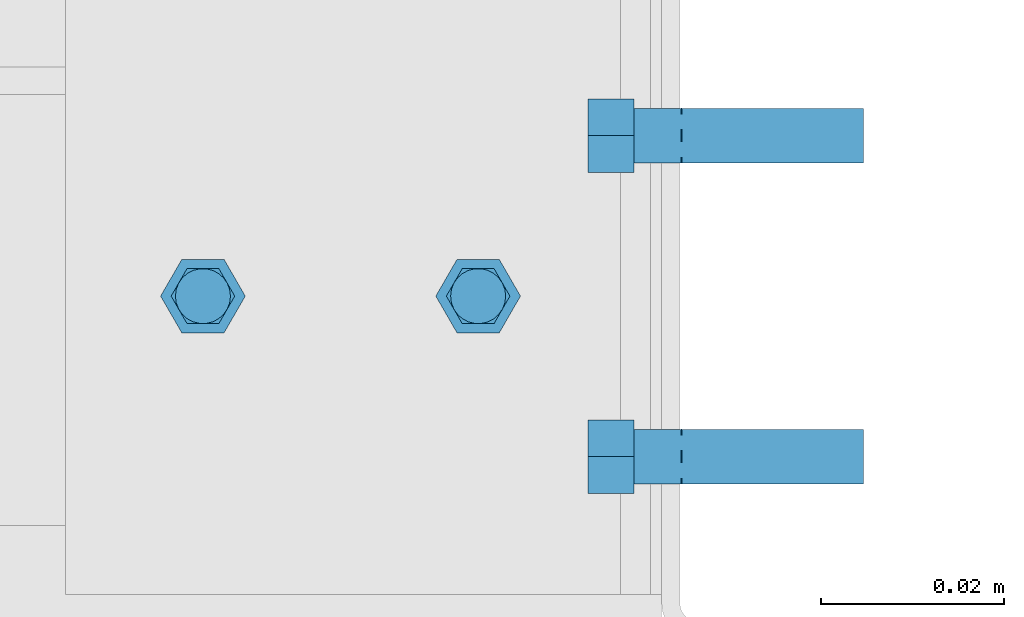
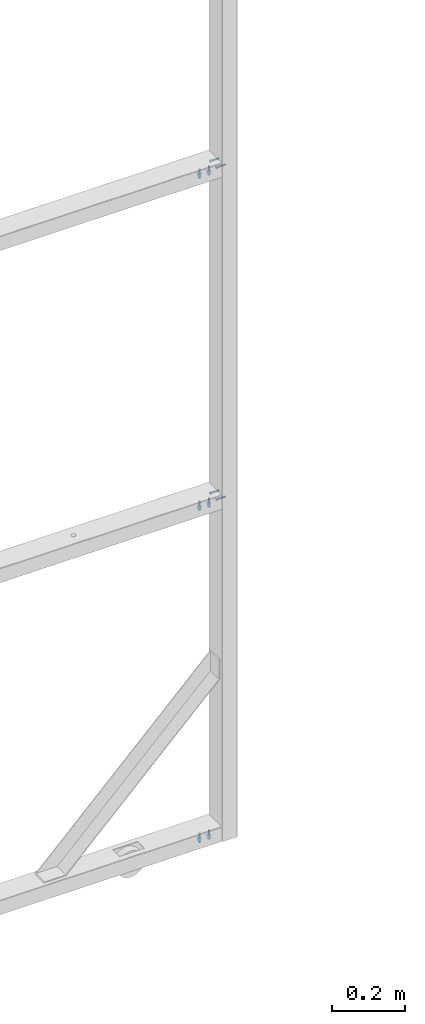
# One storey, part 75 of 91: 8 mechanical fasteners, 1 element without a shape of its own.
"""IFC2X3 building model written with IfcOpenShell, lengths in millimetres."""

from ifc_helpers import new_model, si_unit, frame, origin_with_axes, origin_2d_with_axis, place, context, subcontext, project, spatial, polyline, circle, outline, extrude, source, transform, mapped, material, type_object, element, aggregate, save


model = new_model("IFC2X3")

# Units and contexts
model_context = context("Model", 3, precision=1e-05, world=origin_with_axes())
body_context = subcontext(model_context, "Body", "Model", "MODEL_VIEW")
ifc_project = project(units=[si_unit("LENGTHUNIT", "METRE", prefix="MILLI"), si_unit("AREAUNIT", "SQUARE_METRE"), si_unit("VOLUMEUNIT", "CUBIC_METRE"), si_unit("MASSUNIT", "GRAM", prefix="KILO"), si_unit("TIMEUNIT", "SECOND"), si_unit("PLANEANGLEUNIT", "RADIAN"), si_unit("SOLIDANGLEUNIT", "STERADIAN"), si_unit("THERMODYNAMICTEMPERATUREUNIT", "DEGREE_CELSIUS"), si_unit("LUMINOUSINTENSITYUNIT", "LUMEN")], contexts=[model_context])

# Site, building, storey
site_placement = place(None, origin_with_axes())
site = spatial("IfcSite", under=ifc_project, at=site_placement, Name="Undefined", CompositionType="ELEMENT")
building_placement = place(site_placement, origin_with_axes())
building = spatial("IfcBuilding", under=site, at=building_placement, Name="Undefined", CompositionType="ELEMENT")
storey_placement = place(building_placement, origin_with_axes())
storey = spatial("IfcBuildingStorey", under=building, at=storey_placement, Name="Undefined", CompositionType="ELEMENT", Elevation=0.0)

# Assembly, mechanical fasteners
assembly_placement = place(storey_placement, origin_with_axes())
assembly = element("IfcElementAssembly", 1, at=assembly_placement, inside=storey, Name="Sliding Door Beam", AssemblyPlace="NOTDEFINED", PredefinedType="RIGID_FRAME")
ifc_material = material(Name="TEK_11TPIM")
discrete_accessory_type = type_object("IfcDiscreteAccessoryType", Name="Bolt assembly")
shared_shape_1 = source(origin_with_axes(), body_context, "Body", "SweptSolid", [
    extrude(circle(Radius=3.0, at=origin_2d_with_axis()), frame((0.0, 6.10000000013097, 0.0), z_axis=(0.0, 1.0, 0.0), x_axis=(1.0, 0.0, 0.0)), (0.0, 0.0, 1.0), 3.0),
    extrude(circle(Radius=3.0, at=origin_2d_with_axis()), frame((0.0, 8.9, 0.0), z_axis=(0.0, 1.0, 0.0), x_axis=(1.0, 0.0, 0.0)), (0.0, 0.0, 1.0), 2.1),
    extrude(outline(polyline([(4.61880215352, 0.0), (2.30940107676, 4.00000000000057), (-2.30940107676, 4.00000000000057), (-4.61880215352, 0.0), (-2.30940107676, -4.00000000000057), (2.30940107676, -4.00000000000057), (4.61880215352, 0.0)])), frame((0.0, 1.00000000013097, 0.0), z_axis=(0.0, 1.0, 0.0), x_axis=(1.0, 0.0, 0.0)), (0.0, 0.0, 1.0), 5.0),
    extrude(circle(Radius=3.0, at=origin_2d_with_axis()), frame((0.0, 6.00000000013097, 0.0), z_axis=(0.0, 1.0, 0.0), x_axis=(1.0, 0.0, 0.0)), (0.0, 0.0, 1.0), 25.0),
    extrude(circle(Radius=3.0, at=origin_2d_with_axis()), frame((0.0, 11.0, 0.0), z_axis=(0.0, 1.0, 0.0), x_axis=(1.0, 0.0, 0.0)), (0.0, 0.0, 1.0), 0.1),
    extrude(outline(polyline([(3.46410161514, 0.0), (1.73205080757, 3.00000000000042), (-1.73205080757, 3.00000000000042), (-3.46410161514, 0.0), (-1.73205080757, -3.00000000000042), (1.73205080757, -3.00000000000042), (3.46410161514, 0.0)])), frame((0.0, 11.1000000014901, 0.0), z_axis=(0.0, 1.0, 0.0), x_axis=(1.0, 0.0, 0.0)), (0.0, 0.0, 1.0), 0.1),
])
mechanical_fastener_1_placement = place(assembly_placement, frame((-110610.29, 93380.0, 1122.33666666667), z_axis=(0.0, -1.0, 0.0), x_axis=(0.0, 0.0, -1.0)))
mechanical_fastener_1 = element("IfcMechanicalFastener", 2, at=mechanical_fastener_1_placement, type_object=discrete_accessory_type, material=ifc_material, Name="Bolt assembly", NominalDiameter=6.0, NominalLength=25.0, context=body_context, shape_type="MappedRepresentation", body=[
    mapped(shared_shape_1, transform((0.0, 0.0, -17.5))),
    mapped(shared_shape_1, transform((0.0, 0.0, 17.5))),
])
mechanical_fastener_2_placement = place(assembly_placement, frame((-110610.29, 93380.0, 2236.66333333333), z_axis=(0.0, -1.0, 0.0), x_axis=(0.0, 0.0, -1.0)))
mechanical_fastener_2 = element("IfcMechanicalFastener", 3, at=mechanical_fastener_2_placement, type_object=discrete_accessory_type, material=ifc_material, Name="Bolt assembly", NominalDiameter=6.0, NominalLength=25.0, context=body_context, shape_type="MappedRepresentation", body=[
    mapped(shared_shape_1, transform((0.0, 0.0, -17.5))),
    mapped(shared_shape_1, transform((0.0, 0.0, 17.5))),
])
shared_shape_2 = source(origin_with_axes(), body_context, "Body", "SweptSolid", [
    extrude(circle(Radius=3.0, at=origin_2d_with_axis()), frame((0.0, 0.1, 0.0), z_axis=(0.0, 1.0, 0.0), x_axis=(1.0, 0.0, 0.0)), (0.0, 0.0, 1.0), 2.0),
    extrude(circle(Radius=3.0, at=origin_2d_with_axis()), frame((0.0, 2.90000000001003, 0.0), z_axis=(0.0, 1.0, 0.0), x_axis=(1.0, 0.0, 0.0)), (0.0, 0.0, 1.0), 3.1),
    extrude(outline(polyline([(4.61880215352, 0.0), (2.30940107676, 4.00000000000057), (-2.30940107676, 4.00000000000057), (-4.61880215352, 0.0), (-2.30940107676, -4.00000000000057), (2.30940107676, -4.00000000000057), (4.61880215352, 0.0)])), frame((0.0, -5.0, 0.0), z_axis=(0.0, 1.0, 0.0), x_axis=(1.0, 0.0, 0.0)), (0.0, 0.0, 1.0), 5.0),
    extrude(circle(Radius=3.0, at=origin_2d_with_axis()), frame((0.0, 0.0, 0.0), z_axis=(0.0, 1.0, 0.0), x_axis=(1.0, 0.0, 0.0)), (0.0, 0.0, 1.0), 25.0),
    extrude(circle(Radius=3.0, at=origin_2d_with_axis()), frame((0.0, 6.00000000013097, 0.0), z_axis=(0.0, 1.0, 0.0), x_axis=(1.0, 0.0, 0.0)), (0.0, 0.0, 1.0), 0.1),
    extrude(outline(polyline([(3.46410161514, 0.0), (1.73205080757, 3.00000000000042), (-1.73205080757, 3.00000000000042), (-3.46410161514, 0.0), (-1.73205080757, -3.00000000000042), (1.73205080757, -3.00000000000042), (3.46410161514, 0.0)])), frame((0.0, 6.10000000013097, 0.0), z_axis=(0.0, 1.0, 0.0), x_axis=(1.0, 0.0, 0.0)), (0.0, 0.0, 1.0), 0.1),
])
mechanical_fastener_3_placement = place(assembly_placement, frame((-110621.29, 93380.0, -17.0), z_axis=(0.0, 1.0, 0.0), x_axis=(-1.0, 0.0, 0.0)))
mechanical_fastener_3 = element("IfcMechanicalFastener", 4, at=mechanical_fastener_3_placement, type_object=discrete_accessory_type, material=ifc_material, Name="Bolt assembly", NominalDiameter=6.0, NominalLength=25.0, context=body_context, shape_type="MappedRepresentation", body=[
    mapped(shared_shape_2, transform((0.0, 0.0, 0.0))),
    mapped(shared_shape_2, transform((30.0, 0.0, 0.0))),
])
mechanical_fastener_4_placement = place(assembly_placement, frame((-110621.29, 93380.0, 1097.33666666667), z_axis=(0.0, 1.0, 0.0), x_axis=(-1.0, 0.0, 0.0)))
mechanical_fastener_4 = element("IfcMechanicalFastener", 5, at=mechanical_fastener_4_placement, type_object=discrete_accessory_type, material=ifc_material, Name="Bolt assembly", NominalDiameter=6.0, NominalLength=25.0, context=body_context, shape_type="MappedRepresentation", body=[
    mapped(shared_shape_2, transform((0.0, 0.0, 0.0))),
    mapped(shared_shape_2, transform((30.0, 0.0, 0.0))),
])
mechanical_fastener_5_placement = place(assembly_placement, frame((-110621.29, 93380.0, 2211.66333333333), z_axis=(0.0, 1.0, 0.0), x_axis=(-1.0, 0.0, 0.0)))
mechanical_fastener_5 = element("IfcMechanicalFastener", 6, at=mechanical_fastener_5_placement, type_object=discrete_accessory_type, material=ifc_material, Name="Bolt assembly", NominalDiameter=6.0, NominalLength=25.0, context=body_context, shape_type="MappedRepresentation", body=[
    mapped(shared_shape_2, transform((0.0, 0.0, 0.0))),
    mapped(shared_shape_2, transform((30.0, 0.0, 0.0))),
])
shared_shape_3 = source(origin_with_axes(), body_context, "Body", "SweptSolid", [
    extrude(circle(Radius=3.0, at=origin_2d_with_axis()), frame((0.0, 2.00000000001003, 0.0), z_axis=(0.0, 1.0, 0.0), x_axis=(1.0, 0.0, 0.0)), (0.0, 0.0, 1.0), 3.1),
])
mechanical_fastener_6_placement = place(assembly_placement, frame((-110621.29, 93380.0, -16.0), z_axis=(0.0, 1.0, 0.0), x_axis=(-1.0, 0.0, 0.0)))
mechanical_fastener_6 = element("IfcMechanicalFastener", 7, at=mechanical_fastener_6_placement, type_object=discrete_accessory_type, material=ifc_material, Name="Bolt assembly", NominalDiameter=6.0, NominalLength=8.0, context=body_context, shape_type="MappedRepresentation", body=[
    mapped(shared_shape_3, transform((0.0, 0.0, 0.0))),
    mapped(shared_shape_3, transform((30.0, 0.0, 0.0))),
])
mechanical_fastener_7_placement = place(assembly_placement, frame((-110621.29, 93380.0, 1098.33666666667), z_axis=(0.0, 1.0, 0.0), x_axis=(-1.0, 0.0, 0.0)))
mechanical_fastener_7 = element("IfcMechanicalFastener", 8, at=mechanical_fastener_7_placement, type_object=discrete_accessory_type, material=ifc_material, Name="Bolt assembly", NominalDiameter=6.0, NominalLength=8.0, context=body_context, shape_type="MappedRepresentation", body=[
    mapped(shared_shape_3, transform((0.0, 0.0, 0.0))),
    mapped(shared_shape_3, transform((30.0, 0.0, 0.0))),
])
mechanical_fastener_8_placement = place(assembly_placement, frame((-110621.29, 93380.0, 2212.66333333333), z_axis=(0.0, 1.0, 0.0), x_axis=(-1.0, 0.0, 0.0)))
mechanical_fastener_8 = element("IfcMechanicalFastener", 9, at=mechanical_fastener_8_placement, type_object=discrete_accessory_type, material=ifc_material, Name="Bolt assembly", NominalDiameter=6.0, NominalLength=8.0, context=body_context, shape_type="MappedRepresentation", body=[
    mapped(shared_shape_3, transform((0.0, 0.0, 0.0))),
    mapped(shared_shape_3, transform((30.0, 0.0, 0.0))),
])
aggregate(assembly, [mechanical_fastener_6, mechanical_fastener_3, mechanical_fastener_1, mechanical_fastener_7, mechanical_fastener_4, mechanical_fastener_2, mechanical_fastener_8, mechanical_fastener_5])

save(model, "model.ifc")
